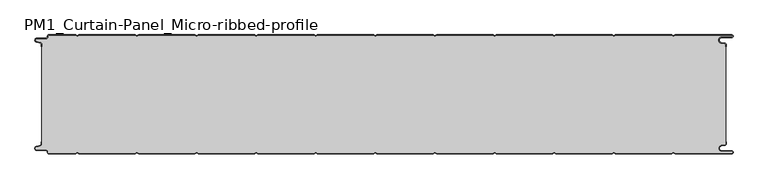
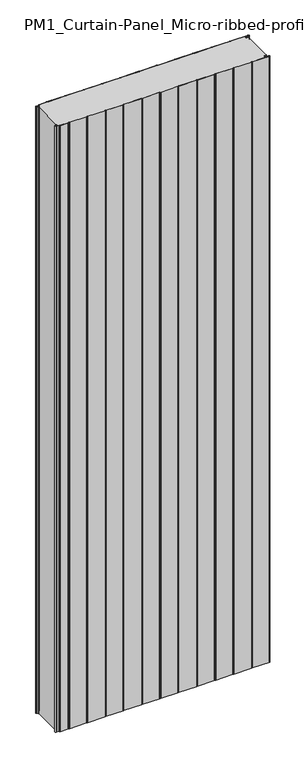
"""IFC4 building model written with IfcOpenShell, lengths in millimetres: plate geometry, PM1_Curtain-Panel_Micro-ribbed-profile : ACH_PM1_Stone-wool-Panel_200M."""

from ifc_helpers import new_model, si_unit, point, frame_2d, origin, origin_with_axes, place, context, project, spatial, polyline, circle_curve, trimmed, segment, composite_curve, outline, extrude, source, transform, mapped, element, save


def pm1_curtain_panel_micro_ribbed_profile_4c8cd07a(model_context):
    return source(origin(), model_context, "Body", "SweptSolid", [
        extrude(outline(composite_curve([segment(trimmed(circle_curve(frame_2d((-577.0, -15.878557)), 2.0), [point((-575.0, -15.878557))], [point((-576.5500978, -13.9298169))], True, "CARTESIAN"), True, "CONTINUOUS"), segment(polyline([(-576.5500978, -13.9298169), (-582.7098239, -12.507732)]), True, "CONTINUOUS"), segment(trimmed(circle_curve(frame_2d((-581.9, -9.0)), 3.6), [point((-582.7098239, -12.507732))], [point((-581.9, -5.4))], False, "CARTESIAN"), True, "CONTINUOUS"), segment(polyline([(-581.9, -5.4), (-566.4, -5.4)]), True, "CONTINUOUS"), segment(trimmed(circle_curve(frame_2d((-566.4, -3.4)), 2.0), [point((-566.4, -5.4))], [point((-564.4, -3.4))], True, "CARTESIAN"), True, "CONTINUOUS"), segment(polyline([(-564.4, -3.4), (-564.4, -2.0)]), True, "CONTINUOUS"), segment(trimmed(circle_curve(frame_2d((-562.4, -2.0)), 2.0), [point((-564.4, -2.0))], [point((-562.4, 0.0))], False, "CARTESIAN"), True, "CONTINUOUS"), segment(polyline([(-562.4, 0.0), (-517.0999995, 0.0), (-514.4, -1.5588455), (-511.7000005, 0.0), (-417.0999995, 0.0), (-414.4, -1.5588455), (-411.7000005, 0.0), (-317.0999995, 0.0), (-314.4, -1.5588455), (-311.7000005, 0.0), (-217.0999995, 0.0), (-214.4, -1.5588455), (-211.7000005, 0.0), (-117.0999995, 0.0), (-114.4, -1.5588455), (-111.7000005, 0.0), (-17.0999995, 0.0), (-14.4, -1.5588455), (-11.7000005, 0.0), (82.9000005, 0.0), (85.6, -1.5588455), (88.2999995, 0.0), (182.9000005, 0.0), (185.6, -1.5588455), (188.2999995, 0.0), (282.9000005, 0.0), (285.6, -1.5588455), (288.2999995, 0.0), (382.9000005, 0.0), (385.6, -1.5588455), (388.2999995, 0.0), (482.9000005, 0.0), (485.6, -1.5588455), (488.2999995, 0.0), (583.1, 0.0)]), True, "CONTINUOUS"), segment(trimmed(circle_curve(frame_2d((583.1, -2.5)), 2.5), [point((583.1, 0.0))], [point((583.1, -5.0))], False, "CARTESIAN"), True, "CONTINUOUS"), segment(polyline([(583.1, -5.0), (566.1, -5.0)]), True, "CONTINUOUS"), segment(trimmed(circle_curve(frame_2d((566.1, -9.0)), 4.0), [point((566.1, -5.0))], [point((565.405407, -12.939231))], True, "CARTESIAN"), True, "CONTINUOUS"), segment(polyline([(565.405407, -12.939231), (571.8514855, -14.0758491)]), True, "CONTINUOUS"), segment(trimmed(circle_curve(frame_2d((571.4, -16.6363492)), 2.6), [point((571.8514855, -14.0758491))], [point((574.0, -16.6363492))], False, "CARTESIAN"), True, "CONTINUOUS"), segment(polyline([(574.0, -16.6363492), (574.0, -20.0), (573.2, -20.0), (573.2, -16.6363492)]), True, "CONTINUOUS"), segment(trimmed(circle_curve(frame_2d((571.4, -16.6363492)), 1.8), [point((573.2, -16.6363492))], [point((571.7125669, -14.8636953))], True, "CARTESIAN"), True, "CONTINUOUS"), segment(polyline([(571.7125669, -14.8636953), (565.2664884, -13.7270772)]), True, "CONTINUOUS"), segment(trimmed(circle_curve(frame_2d((566.1, -9.0)), 4.8), [point((565.2664884, -13.7270772))], [point((566.1, -4.2))], False, "CARTESIAN"), True, "CONTINUOUS"), segment(polyline([(566.1, -4.2), (583.1, -4.2)]), True, "CONTINUOUS"), segment(trimmed(circle_curve(frame_2d((583.1, -2.5)), 1.7), [point((583.1, -4.2))], [point((583.1, -0.8))], True, "CARTESIAN"), True, "CONTINUOUS"), segment(polyline([(583.1, -0.8), (488.5143588, -0.8), (485.6, -2.482606), (482.6856412, -0.8), (388.5143588, -0.8), (385.6, -2.482606), (382.6856412, -0.8), (288.5143588, -0.8), (285.6, -2.482606), (282.6856412, -0.8), (188.5143588, -0.8), (185.6, -2.482606), (182.6856412, -0.8), (88.5143588, -0.8), (85.6, -2.482606), (82.6856412, -0.8), (-11.4856412, -0.8), (-14.4, -2.482606), (-17.3143588, -0.8), (-111.4856412, -0.8), (-114.4, -2.482606), (-117.3143588, -0.8), (-211.4856412, -0.8), (-214.4, -2.482606), (-217.3143588, -0.8), (-311.4856412, -0.8), (-314.4, -2.482606), (-317.3143588, -0.8), (-411.4856412, -0.8), (-414.4, -2.482606), (-417.3143588, -0.8), (-511.4856412, -0.8), (-514.4, -2.482606), (-517.3143588, -0.8), (-562.4, -0.8)]), True, "CONTINUOUS"), segment(trimmed(circle_curve(frame_2d((-562.4, -2.0)), 1.2), [point((-562.4, -0.8))], [point((-563.6, -2.0))], True, "CARTESIAN"), True, "CONTINUOUS"), segment(polyline([(-563.6, -2.0), (-563.6, -3.4)]), True, "CONTINUOUS"), segment(trimmed(circle_curve(frame_2d((-566.4, -3.4)), 2.8), [point((-563.6, -3.4))], [point((-566.4, -6.2))], False, "CARTESIAN"), True, "CONTINUOUS"), segment(polyline([(-566.4, -6.2), (-581.9, -6.2)]), True, "CONTINUOUS"), segment(trimmed(circle_curve(frame_2d((-581.9, -9.0)), 2.8), [point((-581.9, -6.2))], [point((-582.529863, -11.7282362))], True, "CARTESIAN"), True, "CONTINUOUS"), segment(polyline([(-582.529863, -11.7282362), (-576.370137, -13.150321)]), True, "CONTINUOUS"), segment(trimmed(circle_curve(frame_2d((-577.0, -15.878557)), 2.8), [point((-576.370137, -13.150321))], [point((-574.2, -15.878557))], False, "CARTESIAN"), True, "CONTINUOUS"), segment(polyline([(-574.2, -15.878557), (-574.2, -20.0), (-575.0, -20.0), (-575.0, -15.878557)]), True, "CONTINUOUS")], self_intersect=False)), origin_with_axes(), (0.0, 0.0, 1.0), 3500.0),
        extrude(outline(composite_curve([segment(polyline([(-574.2, -184.1214426), (-574.2, -15.8785573)]), True, "CONTINUOUS"), segment(trimmed(circle_curve(frame_2d((-577.0, -15.8785573)), 2.8), [point((-574.2, -15.8785573))], [point((-576.370137, -13.1503212))], True, "CARTESIAN"), True, "CONTINUOUS"), segment(polyline([(-576.370137, -13.1503212), (-582.5298631, -11.7282362)]), True, "CONTINUOUS"), segment(trimmed(circle_curve(frame_2d((-581.9, -9.0)), 2.8), [point((-582.5298631, -11.7282362))], [point((-581.9, -6.2))], False, "CARTESIAN"), True, "CONTINUOUS"), segment(polyline([(-581.9, -6.2), (-566.4000001, -6.2)]), True, "CONTINUOUS"), segment(trimmed(circle_curve(frame_2d((-566.4000001, -3.4)), 2.8), [point((-566.4000001, -6.2))], [point((-563.6000001, -3.4))], True, "CARTESIAN"), True, "CONTINUOUS"), segment(polyline([(-563.6000001, -3.4), (-563.6000001, -2.0)]), True, "CONTINUOUS"), segment(trimmed(circle_curve(frame_2d((-562.4000001, -2.0)), 1.2), [point((-563.6000001, -2.0))], [point((-562.4000001, -0.8))], False, "CARTESIAN"), True, "CONTINUOUS"), segment(polyline([(-562.4000001, -0.8), (-517.3143589, -0.8), (-514.4000001, -2.482606), (-511.4856412, -0.8), (-417.3143589, -0.8), (-414.4000001, -2.482606), (-411.4856412, -0.8), (-317.3143589, -0.8), (-314.4000001, -2.482606), (-311.4856412, -0.8), (-217.3143589, -0.8), (-214.4000001, -2.482606), (-211.4856412, -0.8), (-117.3143589, -0.8), (-114.4000001, -2.482606), (-111.4856412, -0.8), (-17.3143589, -0.8), (-14.4000001, -2.482606), (-11.4856412, -0.8), (82.6856411, -0.8), (85.5999999, -2.482606), (88.5143588, -0.8), (182.6856411, -0.8), (185.5999999, -2.482606), (188.5143588, -0.8), (282.6856411, -0.8), (285.5999999, -2.482606), (288.5143588, -0.8), (382.6856411, -0.8), (385.5999999, -2.482606), (388.5143588, -0.8), (482.6856411, -0.8), (485.6, -2.482606), (488.5143588, -0.8), (583.1, -0.8)]), True, "CONTINUOUS"), segment(trimmed(circle_curve(frame_2d((583.1, -2.5)), 1.7), [point((583.1, -0.8))], [point((583.1, -4.2))], False, "CARTESIAN"), True, "CONTINUOUS"), segment(polyline([(583.1, -4.2), (566.1, -4.2)]), True, "CONTINUOUS"), segment(trimmed(circle_curve(frame_2d((566.1, -9.0)), 4.8), [point((566.1, -4.2))], [point((565.2664883, -13.7270771))], True, "CARTESIAN"), True, "CONTINUOUS"), segment(polyline([(565.2664883, -13.7270771), (571.7125668, -14.8636953)]), True, "CONTINUOUS"), segment(trimmed(circle_curve(frame_2d((571.4, -16.6363492)), 1.8), [point((571.7125668, -14.8636953))], [point((573.2, -16.6363492))], False, "CARTESIAN"), True, "CONTINUOUS"), segment(polyline([(573.2, -16.6363492), (573.2, -183.3636508)]), True, "CONTINUOUS"), segment(trimmed(circle_curve(frame_2d((571.4, -183.3636508)), 1.8), [point((573.2, -183.3636508))], [point((571.7125668, -185.1363047))], False, "CARTESIAN"), True, "CONTINUOUS"), segment(polyline([(571.7125668, -185.1363047), (565.2664883, -186.2729229)]), True, "CONTINUOUS"), segment(trimmed(circle_curve(frame_2d((566.1, -191.0)), 4.8), [point((565.2664883, -186.2729229))], [point((566.1, -195.8))], True, "CARTESIAN"), True, "CONTINUOUS"), segment(polyline([(566.1, -195.8), (583.1, -195.8)]), True, "CONTINUOUS"), segment(trimmed(circle_curve(frame_2d((583.1, -197.5)), 1.7), [point((583.1, -195.8))], [point((583.1, -199.2))], False, "CARTESIAN"), True, "CONTINUOUS"), segment(polyline([(583.1, -199.2), (488.5143588, -199.2), (485.6, -197.517394), (482.6856411, -199.2), (388.5143588, -199.2), (385.5999999, -197.517394), (382.6856411, -199.2), (288.5143588, -199.2), (285.5999999, -197.517394), (282.6856411, -199.2), (188.5143588, -199.2), (185.5999999, -197.517394), (182.6856411, -199.2), (88.5143588, -199.2), (85.5999999, -197.517394), (82.6856411, -199.2), (-11.4856412, -199.2), (-14.4000001, -197.517394), (-17.3143589, -199.2), (-111.4856412, -199.2), (-114.4000001, -197.517394), (-117.3143589, -199.2), (-211.4856412, -199.2), (-214.4000001, -197.517394), (-217.3143589, -199.2), (-311.4856412, -199.2), (-314.4000001, -197.517394), (-317.3143589, -199.2), (-411.4856412, -199.2), (-414.4000001, -197.517394), (-417.3143589, -199.2), (-511.4856412, -199.2), (-514.4000001, -197.517394), (-517.3143589, -199.2), (-562.4000001, -199.2)]), True, "CONTINUOUS"), segment(trimmed(circle_curve(frame_2d((-562.4000001, -198.0)), 1.2), [point((-562.4000001, -199.2))], [point((-563.6000001, -198.0))], False, "CARTESIAN"), True, "CONTINUOUS"), segment(polyline([(-563.6000001, -198.0), (-563.6000001, -196.6)]), True, "CONTINUOUS"), segment(trimmed(circle_curve(frame_2d((-566.4000001, -196.6)), 2.8), [point((-563.6000001, -196.6))], [point((-566.4000001, -193.8))], True, "CARTESIAN"), True, "CONTINUOUS"), segment(polyline([(-566.4000001, -193.8), (-581.9, -193.8)]), True, "CONTINUOUS"), segment(trimmed(circle_curve(frame_2d((-581.9, -191.0)), 2.8), [point((-581.9, -193.8))], [point((-582.5298631, -188.2717638))], False, "CARTESIAN"), True, "CONTINUOUS"), segment(polyline([(-582.5298631, -188.2717638), (-576.370137, -186.8496788)]), True, "CONTINUOUS"), segment(trimmed(circle_curve(frame_2d((-577.0, -184.1214426)), 2.8), [point((-576.370137, -186.8496788))], [point((-574.2, -184.1214426))], True, "CARTESIAN"), True, "CONTINUOUS")], self_intersect=False)), origin_with_axes(), (0.0, 0.0, 1.0), 3500.0),
        extrude(outline(composite_curve([segment(polyline([(-575.0, -184.121443), (-575.0, -180.0), (-574.2, -180.0), (-574.2, -184.121443)]), True, "CONTINUOUS"), segment(trimmed(circle_curve(frame_2d((-577.0, -184.121443)), 2.8), [point((-574.2, -184.121443))], [point((-576.370137, -186.8496792))], False, "CARTESIAN"), True, "CONTINUOUS"), segment(polyline([(-576.370137, -186.8496792), (-582.529863, -188.271764)]), True, "CONTINUOUS"), segment(trimmed(circle_curve(frame_2d((-581.9, -191.0)), 2.8), [point((-582.529863, -188.271764))], [point((-581.9, -193.8))], True, "CARTESIAN"), True, "CONTINUOUS"), segment(polyline([(-581.9, -193.8), (-566.4, -193.8)]), True, "CONTINUOUS"), segment(trimmed(circle_curve(frame_2d((-566.4, -196.6)), 2.8), [point((-566.4, -193.8))], [point((-563.6, -196.6))], False, "CARTESIAN"), True, "CONTINUOUS"), segment(polyline([(-563.6, -196.6), (-563.6, -198.0)]), True, "CONTINUOUS"), segment(trimmed(circle_curve(frame_2d((-562.4, -198.0)), 1.2), [point((-563.6, -198.0))], [point((-562.4, -199.2))], True, "CARTESIAN"), True, "CONTINUOUS"), segment(polyline([(-562.4, -199.2), (-517.3143588, -199.2), (-514.4, -197.517394), (-511.4856412, -199.2), (-417.3143588, -199.2), (-414.4, -197.517394), (-411.4856412, -199.2), (-317.3143588, -199.2), (-314.4, -197.517394), (-311.4856412, -199.2), (-217.3143588, -199.2), (-214.4, -197.517394), (-211.4856412, -199.2), (-117.3143588, -199.2), (-114.4, -197.517394), (-111.4856412, -199.2), (-17.3143588, -199.2), (-14.4, -197.517394), (-11.4856412, -199.2), (82.6856412, -199.2), (85.6, -197.517394), (88.5143588, -199.2), (182.6856412, -199.2), (185.6, -197.517394), (188.5143588, -199.2), (282.6856412, -199.2), (285.6, -197.517394), (288.5143588, -199.2), (382.6856412, -199.2), (385.6, -197.517394), (388.5143588, -199.2), (482.6856412, -199.2), (485.6, -197.517394), (488.5143588, -199.2), (583.1, -199.2)]), True, "CONTINUOUS"), segment(trimmed(circle_curve(frame_2d((583.1, -197.5)), 1.7), [point((583.1, -199.2))], [point((583.1, -195.8))], True, "CARTESIAN"), True, "CONTINUOUS"), segment(polyline([(583.1, -195.8), (566.1, -195.8)]), True, "CONTINUOUS"), segment(trimmed(circle_curve(frame_2d((566.1, -191.0)), 4.8), [point((566.1, -195.8))], [point((565.2664884, -186.2729229))], False, "CARTESIAN"), True, "CONTINUOUS"), segment(polyline([(565.2664884, -186.2729229), (571.7125669, -185.1363047)]), True, "CONTINUOUS"), segment(trimmed(circle_curve(frame_2d((571.4, -183.3636508)), 1.8), [point((571.7125669, -185.1363047))], [point((573.2, -183.3636508))], True, "CARTESIAN"), True, "CONTINUOUS"), segment(polyline([(573.2, -183.3636508), (573.2, -180.0), (574.0, -180.0), (574.0, -183.3636508)]), True, "CONTINUOUS"), segment(trimmed(circle_curve(frame_2d((571.4, -183.3636508)), 2.6), [point((574.0, -183.3636508))], [point((571.8514855, -185.9241509))], False, "CARTESIAN"), True, "CONTINUOUS"), segment(polyline([(571.8514855, -185.9241509), (565.405407, -187.060769)]), True, "CONTINUOUS"), segment(trimmed(circle_curve(frame_2d((566.1, -191.0)), 4.0), [point((565.405407, -187.060769))], [point((566.1, -195.0))], True, "CARTESIAN"), True, "CONTINUOUS"), segment(polyline([(566.1, -195.0), (583.1, -195.0)]), True, "CONTINUOUS"), segment(trimmed(circle_curve(frame_2d((583.1, -197.5)), 2.5), [point((583.1, -195.0))], [point((583.1, -200.0))], False, "CARTESIAN"), True, "CONTINUOUS"), segment(polyline([(583.1, -200.0), (488.2999995, -200.0), (485.6, -198.4411545), (482.9000005, -200.0), (388.2999995, -200.0), (385.6, -198.4411545), (382.9000005, -200.0), (288.2999995, -200.0), (285.6, -198.4411545), (282.9000005, -200.0), (188.2999995, -200.0), (185.6, -198.4411545), (182.9000005, -200.0), (88.2999995, -200.0), (85.6, -198.4411545), (82.9000005, -200.0), (-11.7000005, -200.0), (-14.4, -198.4411545), (-17.0999995, -200.0), (-111.7000005, -200.0), (-114.4, -198.4411545), (-117.0999995, -200.0), (-211.7000005, -200.0), (-214.4, -198.4411545), (-217.0999995, -200.0), (-311.7000005, -200.0), (-314.4, -198.4411545), (-317.0999995, -200.0), (-411.7000005, -200.0), (-414.4, -198.4411545), (-417.0999995, -200.0), (-511.7000005, -200.0), (-514.4, -198.4411545), (-517.0999995, -200.0), (-562.4, -200.0)]), True, "CONTINUOUS"), segment(trimmed(circle_curve(frame_2d((-562.4, -198.0)), 2.0), [point((-562.4, -200.0))], [point((-564.4, -198.0))], False, "CARTESIAN"), True, "CONTINUOUS"), segment(polyline([(-564.4, -198.0), (-564.4, -196.6)]), True, "CONTINUOUS"), segment(trimmed(circle_curve(frame_2d((-566.4, -196.6)), 2.0), [point((-564.4, -196.6))], [point((-566.4, -194.6))], True, "CARTESIAN"), True, "CONTINUOUS"), segment(polyline([(-566.4, -194.6), (-581.9, -194.6)]), True, "CONTINUOUS"), segment(trimmed(circle_curve(frame_2d((-581.9, -191.0)), 3.6), [point((-581.9, -194.6))], [point((-582.7098239, -187.4922678))], False, "CARTESIAN"), True, "CONTINUOUS"), segment(polyline([(-582.7098239, -187.4922678), (-576.5500979, -186.070183)]), True, "CONTINUOUS"), segment(trimmed(circle_curve(frame_2d((-577.0, -184.121443)), 2.0), [point((-576.5500979, -186.070183))], [point((-575.0, -184.121443))], True, "CARTESIAN"), True, "CONTINUOUS")], self_intersect=False)), origin_with_axes(), (0.0, 0.0, 1.0), 3500.0),
    ])


if __name__ == "__main__":
    model = new_model("IFC4")
    model_context = context("Model", 3, world=origin())
    ifc_project = project(units=[si_unit("LENGTHUNIT", "METRE", prefix="MILLI")], contexts=[model_context])
    site = spatial("IfcSite", under=ifc_project)
    building = spatial("IfcBuilding", under=site)
    placement = place(None, origin())
    pm1_curtain_panel_micro_ribbed_profile_shape = pm1_curtain_panel_micro_ribbed_profile_4c8cd07a(model_context)
    element("IfcPlate", 1, ObjectType="PM1_Curtain-Panel_Micro-ribbed-profile : ACH_PM1_Stone-wool-Panel_200M", at=placement, inside=building, context=model_context, shape_type="MappedRepresentation", body=[
        mapped(pm1_curtain_panel_micro_ribbed_profile_shape, transform((0.0, 0.0, 0.0), x_axis=(1.0, 0.0, 0.0), y_axis=(0.0, 1.0, 0.0), z_axis=(0.0, 0.0, 1.0))),
    ])
    save(model, "model.ifc")
